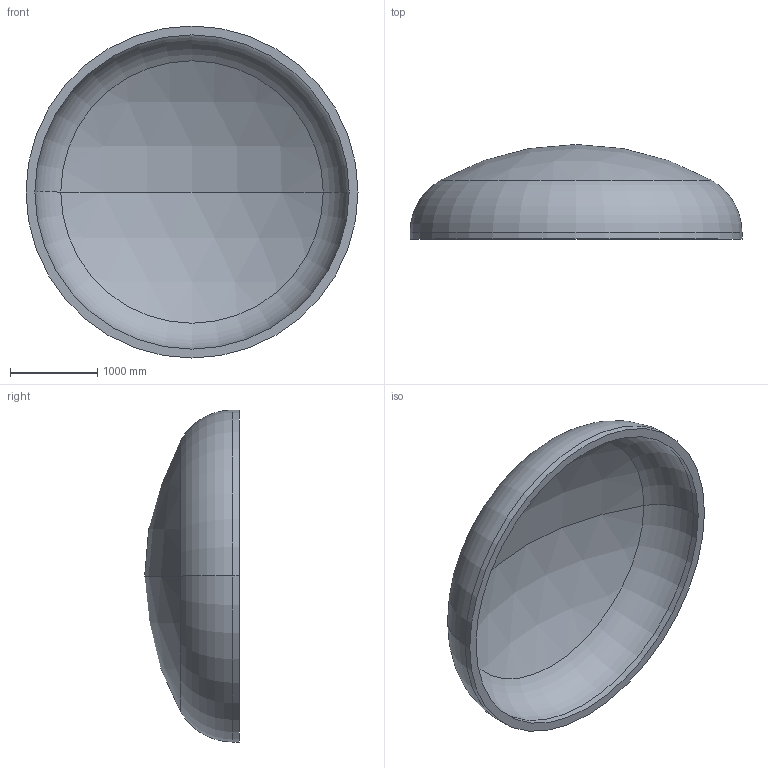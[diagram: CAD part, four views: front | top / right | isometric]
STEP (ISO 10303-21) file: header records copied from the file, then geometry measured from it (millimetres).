
FILE_DESCRIPTION (( 'STEP AP203' ), '1' );
FILE_NAME ('DIN 28013 Korbbogenform_-_Boden DIN 28013 - 3800 x 75 - I - s=102.step', '2016-07-01T21:48:53', ( '' ), ( '' ), 'SwSTEP 2.0', 'SolidWorks 2013', '' );
FILE_SCHEMA (( 'CONFIG_CONTROL_DESIGN' ));
Length unit declared in the file: millimetre
Products named in the file (1): DIN 28013 Korbbogenform_-_Boden DIN 28013 - 3800 x 75 - I - s=102
Bounding box: 3800 x 1082.6 x 3800 mm (x, y, z)
Volume: 1635570368.9 mm3; surface area: 33276782.4 mm2
Topology: 1 solids, 1 shells, 13 faces, 24 edges, 14 vertices
Faces by surface type: torus 4, cylinder 4, sphere 4, plane 1
Entity records: 407 total; most frequent: DIRECTION 72, CARTESIAN_POINT 52, ORIENTED_EDGE 48, AXIS2_PLACEMENT_3D 34, EDGE_CURVE 24, CIRCLE 20, VERTEX_POINT 14, EDGE_LOOP 14
